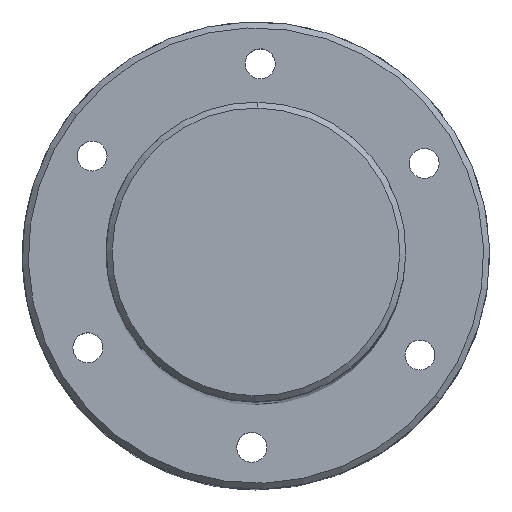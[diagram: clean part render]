
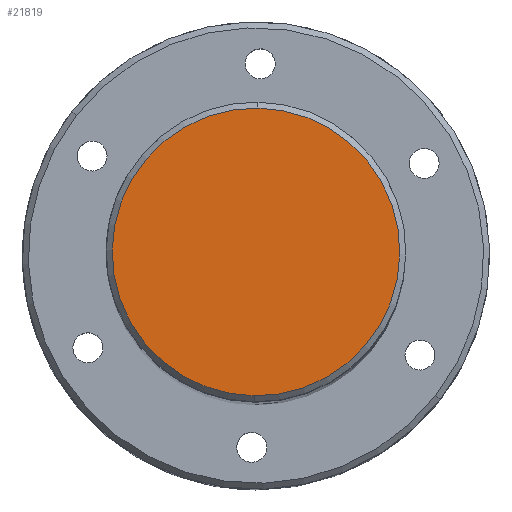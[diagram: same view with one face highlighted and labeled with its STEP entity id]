
A CAD part, top view. The second image highlights one B-rep face of the part: STEP entity #21819.
In plain terms, the highlighted planar face has unit normal (0, 0, 1) as drawn and (-1, 0, 0) by its records, which use the part's own axes.
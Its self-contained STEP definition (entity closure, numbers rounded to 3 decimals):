
#1664 = CARTESIAN_POINT ( 'NONE',  ( 0., 0., 0. ) ) ;
#1776 = EDGE_CURVE ( 'NONE', #13599, #16076, #4051, .T. ) ;
#3627 = DIRECTION ( 'NONE',  ( -1., 0., 0. ) ) ;
#3756 = CARTESIAN_POINT ( 'NONE',  ( 0., 0., -24. ) ) ;
#4051 = CIRCLE ( 'NONE', #19671, 24. ) ;
#6070 = DIRECTION ( 'NONE',  ( 1., 0., 0. ) ) ;
#7743 = AXIS2_PLACEMENT_3D ( 'NONE', #11831, #3627, #12047 ) ;
#8401 = DIRECTION ( 'NONE',  ( 0., 0., -1. ) ) ;
#8545 = FACE_OUTER_BOUND ( 'NONE', #15932, .T. ) ;
#9492 = EDGE_CURVE ( 'NONE', #16076, #13599, #12828, .T. ) ;
#10880 = ORIENTED_EDGE ( 'NONE', *, *, #9492, .T. ) ;
#11831 = CARTESIAN_POINT ( 'NONE',  ( 0., 0., 0. ) ) ;
#12047 = DIRECTION ( 'NONE',  ( 0., 0., -1. ) ) ;
#12828 = CIRCLE ( 'NONE', #7743, 24. ) ;
#13599 = VERTEX_POINT ( 'NONE', #19738 ) ;
#14137 = CARTESIAN_POINT ( 'NONE',  ( 0., 0., 0. ) ) ;
#15932 = EDGE_LOOP ( 'NONE', ( #10880, #21160 ) ) ;
#16076 = VERTEX_POINT ( 'NONE', #3756 ) ;
#16203 = AXIS2_PLACEMENT_3D ( 'NONE', #14137, #6070, #19499 ) ;
#18555 = DIRECTION ( 'NONE',  ( -1., 0., 0. ) ) ;
#19211 = PLANE ( 'NONE',  #16203 ) ;
#19499 = DIRECTION ( 'NONE',  ( 0., 0., -1. ) ) ;
#19671 = AXIS2_PLACEMENT_3D ( 'NONE', #1664, #18555, #8401 ) ;
#19738 = CARTESIAN_POINT ( 'NONE',  ( 0., 0., 24. ) ) ;
#21160 = ORIENTED_EDGE ( 'NONE', *, *, #1776, .T. ) ;
#21819 = ADVANCED_FACE ( 'NONE', ( #8545 ), #19211, .F. ) ;
